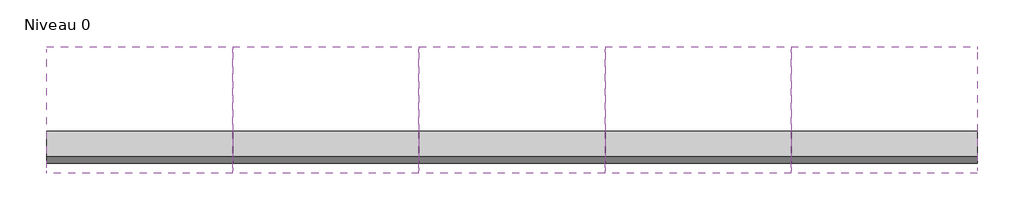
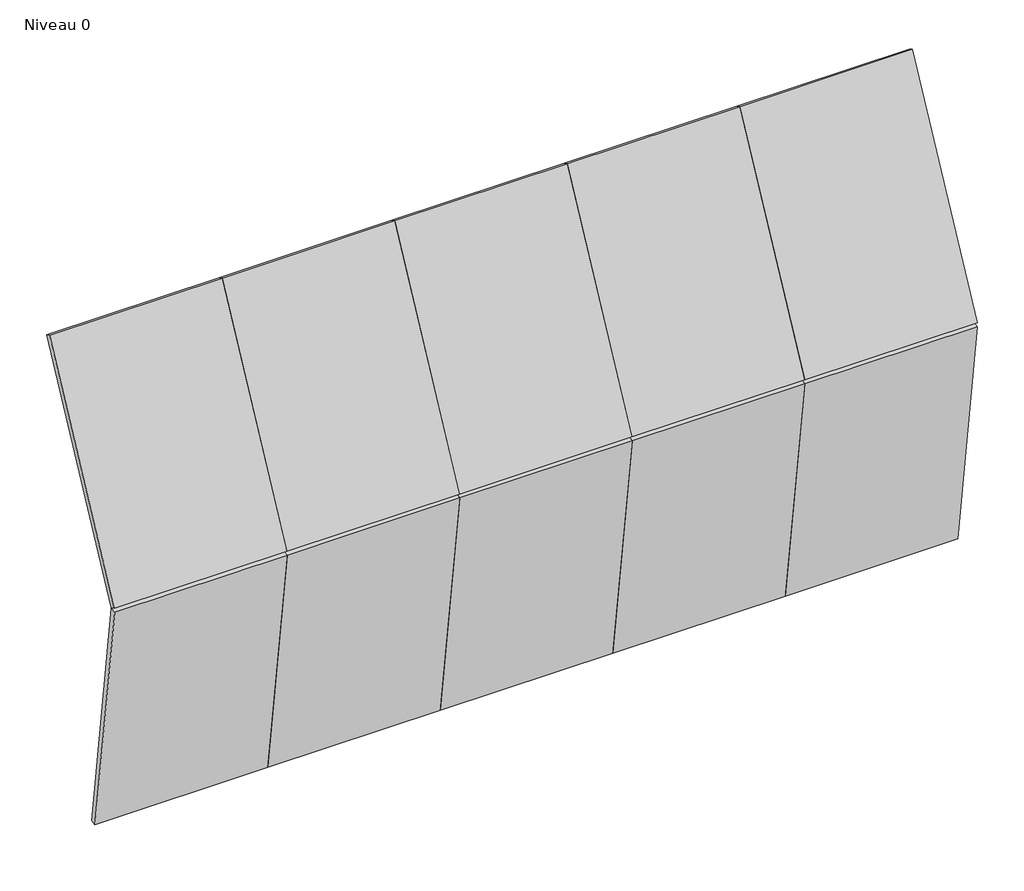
# One storey, incomplete: 10 plates.
"""IFC4 building model written with IfcOpenShell, lengths in millimetres."""

from ifc_helpers import new_model, si_unit, origin, place, context, project, spatial, transform, mapped, element, save
from components import plate_71a74d13

model = new_model("IFC4")

# Units and contexts
model_context = context("Model", 3, world=origin())
ifc_project = project(units=[si_unit("LENGTHUNIT", "METRE", prefix="MILLI")], contexts=[model_context])

# Site, building, storey
site = spatial("IfcSite", under=ifc_project)
building = spatial("IfcBuilding", under=site)
storey = spatial("IfcBuildingStorey", under=building, Name="Niveau 0", Elevation=0.0)

# Plates
placement = place(None, origin())
plate_shape = plate_71a74d13(model_context)
element("IfcPlate", 1, ObjectType="Panneau système : Vitré", at=placement, inside=storey, context=model_context, shape_type="MappedRepresentation", body=[
    mapped(plate_shape, transform((-1199.7713711, 312.1997291, 2472.4007102), x_axis=(0.0, -0.45374941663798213, -0.8911293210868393), y_axis=(0.0, 0.8911293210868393, -0.45374941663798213), z_axis=(1.0, 0.0, 0.0))),
])
element("IfcPlate", 2, ObjectType="Panneau système : Vitré", at=placement, inside=storey, context=model_context, shape_type="MappedRepresentation", body=[
    mapped(plate_shape, transform((-1199.7713711, 40.4777479, 852.6247805), x_axis=(0.0, 0.1381148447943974, -0.9904162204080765), y_axis=(0.0, 0.9904162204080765, 0.1381148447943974), z_axis=(1.0, 0.0, 0.0))),
])
element("IfcPlate", 3, ObjectType="Panneau système : Vitré", at=placement, inside=storey, context=model_context, shape_type="MappedRepresentation", body=[
    mapped(plate_shape, transform((0.2286289, 312.1997291, 2472.4007102), x_axis=(0.0, -0.4537494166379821, -0.8911293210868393), y_axis=(0.0, 0.8911293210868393, -0.4537494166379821), z_axis=(1.0, 0.0, 0.0))),
])
element("IfcPlate", 4, ObjectType="Panneau système : Vitré", at=placement, inside=storey, context=model_context, shape_type="MappedRepresentation", body=[
    mapped(plate_shape, transform((0.2286289, 40.4777479, 852.6247805), x_axis=(0.0, 0.13811484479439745, -0.9904162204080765), y_axis=(0.0, 0.9904162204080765, 0.13811484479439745), z_axis=(1.0, 0.0, 0.0))),
])
element("IfcPlate", 5, ObjectType="Panneau système : Vitré", at=placement, inside=storey, context=model_context, shape_type="MappedRepresentation", body=[
    mapped(plate_shape, transform((1200.2286289, 312.1997291, 2472.4007102), x_axis=(0.0, -0.4537494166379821, -0.8911293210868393), y_axis=(0.0, 0.8911293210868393, -0.4537494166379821), z_axis=(1.0, 0.0, 0.0))),
])
element("IfcPlate", 6, ObjectType="Panneau système : Vitré", at=placement, inside=storey, context=model_context, shape_type="MappedRepresentation", body=[
    mapped(plate_shape, transform((1200.2286289, 40.4777479, 852.6247805), x_axis=(0.0, 0.13811484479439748, -0.9904162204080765), y_axis=(0.0, 0.9904162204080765, 0.13811484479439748), z_axis=(1.0, 0.0, 0.0))),
])
element("IfcPlate", 7, ObjectType="Panneau système : Vitré", at=placement, inside=storey, context=model_context, shape_type="MappedRepresentation", body=[
    mapped(plate_shape, transform((2400.2286289, 312.1997291, 2472.4007102), x_axis=(0.0, -0.45374941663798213, -0.8911293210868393), y_axis=(0.0, 0.8911293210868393, -0.45374941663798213), z_axis=(1.0, 0.0, 0.0))),
])
element("IfcPlate", 8, ObjectType="Panneau système : Vitré", at=placement, inside=storey, context=model_context, shape_type="MappedRepresentation", body=[
    mapped(plate_shape, transform((2400.2286289, 40.4777479, 852.6247805), x_axis=(0.0, 0.1381148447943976, -0.9904162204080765), y_axis=(0.0, 0.9904162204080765, 0.1381148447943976), z_axis=(1.0, 0.0, 0.0))),
])
element("IfcPlate", 9, ObjectType="Panneau système : Vitré", at=placement, inside=storey, context=model_context, shape_type="MappedRepresentation", body=[
    mapped(plate_shape, transform((3600.2286289, 312.1997291, 2472.4007102), x_axis=(0.0, -0.453749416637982, -0.8911293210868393), y_axis=(0.0, 0.8911293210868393, -0.453749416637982), z_axis=(1.0, 0.0, 0.0))),
])
element("IfcPlate", 10, ObjectType="Panneau système : Vitré", at=placement, inside=storey, context=model_context, shape_type="MappedRepresentation", body=[
    mapped(plate_shape, transform((3600.2286289, 40.4777479, 852.6247805), x_axis=(0.0, 0.13811484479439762, -0.9904162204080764), y_axis=(0.0, 0.9904162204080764, 0.13811484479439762), z_axis=(1.0, 0.0, 0.0))),
])

save(model, "model.ifc")
